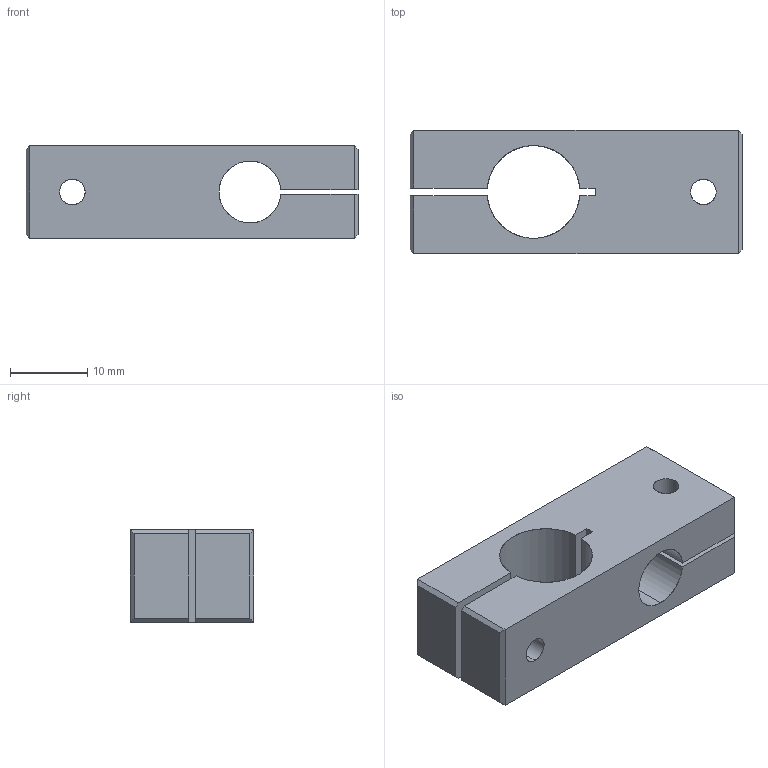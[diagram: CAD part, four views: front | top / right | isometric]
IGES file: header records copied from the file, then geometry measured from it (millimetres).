
Start section: SolidWorks IGES file using analytic representation for surfaces
Global section: file name: C:\Documents and Settings\CAD53\デスクトップ\IGES\N01861-201-1.IGS; native system: SolidWorks 2005 by SolidWorks Corporation; preprocessor: SolidWorks 2005 by SolidWorks Corporation; author: CAD53; date: 070530.101754; units: millimetre
Bounding box: 43 x 16 x 12 mm (x, y, z)
Surface area: 4135.3 mm2 (no closed solid volume)
Topology: 0 solids, 0 shells, 46 faces, 714 edges, 714 vertices
Faces by surface type: bspline 29, revolution 17
